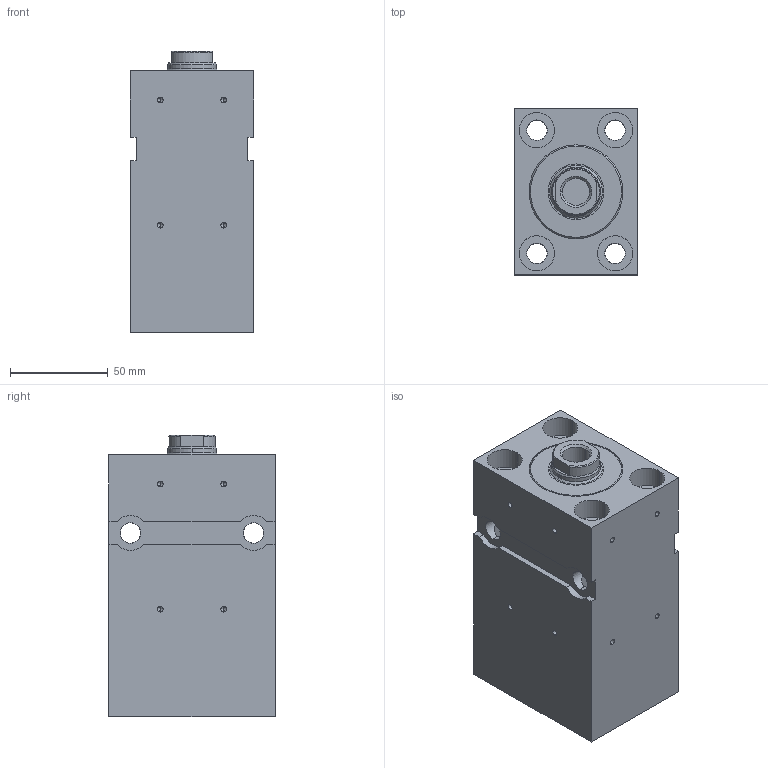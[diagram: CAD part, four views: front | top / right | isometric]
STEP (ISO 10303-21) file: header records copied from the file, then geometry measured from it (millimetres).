
FILE_DESCRIPTION (( 'STEP AP203' ), '1' );
FILE_NAME ('BZ_500.40_25.78.201.080 PP.KBC40__DH_0_.STEP', '2022-05-27T10:44:58', ( '' ), ( '' ), 'SwSTEP 2.0', 'SolidWorks 2020', '' );
FILE_SCHEMA (( 'CONFIG_CONTROL_DESIGN' ));
Length unit declared in the file: millimetre
Products named in the file (6): _Verschraubung komplett mit Dichtung f. BZ_RZ_FZ.40_25.201, Art.-Nr._ 041752(201)^BZ_500.40_25.78.201.080 PP.KBC40__DH_0_(2)_BZ_500.40_25.78.201.080 PP.KBC40__DH_0_; BZ_500.40_25.78.201.080 PP.KBC40__DH_0_(2)^BZ_500.40_25.78.201.080 PP.KBC40__DH_0_; _Dichtungssatz f. BZ_RZ_FZ.40_25.xx.201.80 Artikelnr._ 013543(0)^BZ_500.40_25.78.201.080 PP.KBC40__DH_0_(2)_BZ_500.40_25.78.201.080 PP.KBC40__DH_0_; _Kolbenstange komplett f. BZ_RZ_FZ.40_25.xx.201.80(0_11 1 16 2 0 0 10 25 0 0 0)0^BZ_500.40_25.78.201.080 PP.KBC40__DH_0_(2)_BZ_500.40_25.78.201.080 PP.KBC40__DH_0_; _Gehaeuse f. BZ500.40_25.Fehler in IDBF.201.80Fehler in IDNT00(1340frei278000))7^BZ_500.40_25.78.201.080 PP.KBC40__DH_0_(2)_BZ_500.40_25.78.201.080 PP.KBC40__DH_0_; BZ_500.40_25.78.201.080 PP.KBC40__DH_0_
Assembly tree (5 placements, depth 3):
  BZ_500.40_25.78.201.080 PP.KBC40__DH_0_
    BZ_500.40_25.78.201.080 PP.KBC40__DH_0_(2)^BZ_500.40_25.78.201.080 PP.KBC40__DH_0_
      _Gehaeuse f. BZ500.40_25.Fehler in IDBF.201.80Fehler in IDNT00(1340frei278000))7^BZ_500.40_25.78.201.080 PP.KBC40__DH_0_(2)_BZ_500.40_25.78.201.080 PP.KBC40__DH_0_
      _Verschraubung komplett mit Dichtung f. BZ_RZ_FZ.40_25.201, Art.-Nr._ 041752(201)^BZ_500.40_25.78.201.080 PP.KBC40__DH_0_(2)_BZ_500.40_25.78.201.080 PP.KBC40__DH_0_
      _Dichtungssatz f. BZ_RZ_FZ.40_25.xx.201.80 Artikelnr._ 013543(0)^BZ_500.40_25.78.201.080 PP.KBC40__DH_0_(2)_BZ_500.40_25.78.201.080 PP.KBC40__DH_0_
      _Kolbenstange komplett f. BZ_RZ_FZ.40_25.xx.201.80(0_11 1 16 2 0 0 10 25 0 0 0)0^BZ_500.40_25.78.201.080 PP.KBC40__DH_0_(2)_BZ_500.40_25.78.201.080 PP.KBC40__DH_0_
Bounding box: 63 x 85 x 144 mm (x, y, z)
Volume: 576799 mm3; surface area: 115853.8 mm2
Topology: 4 solids, 4 shells, 207 faces, 512 edges, 308 vertices
Faces by surface type: cylinder 117, plane 52, cone 38
Entity records: 6836 total; most frequent: CARTESIAN_POINT 1307, DIRECTION 1097, ORIENTED_EDGE 976, EDGE_CURVE 488, AXIS2_PLACEMENT_3D 435, VERTEX_POINT 308, EDGE_LOOP 254, VECTOR 227
